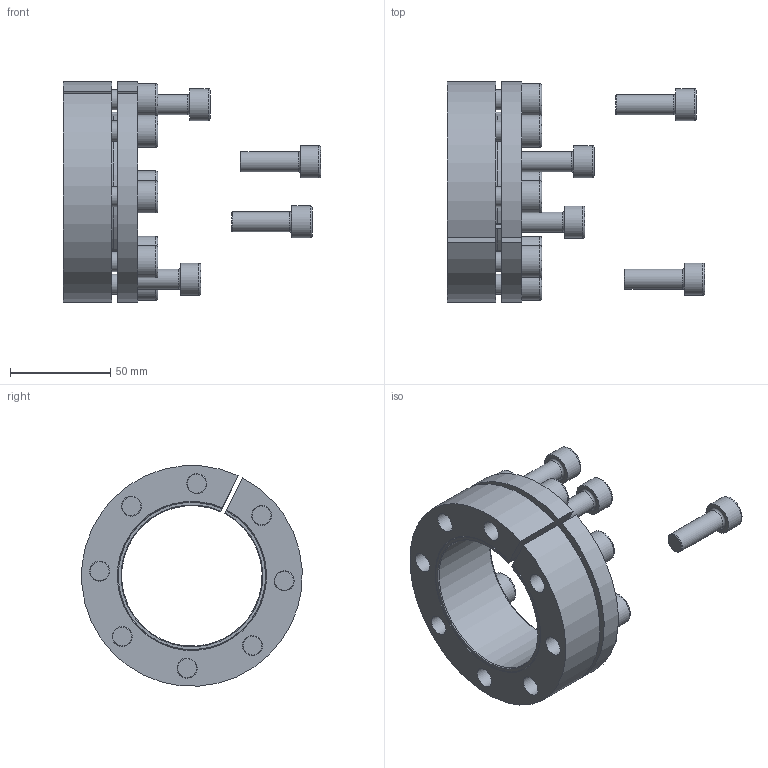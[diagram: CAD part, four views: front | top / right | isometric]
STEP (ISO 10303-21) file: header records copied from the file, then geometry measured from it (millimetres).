
FILE_DESCRIPTION((''),'2;1');
FILE_NAME('M:\Disegni 3D\CALETTATORI\RCK 13\70x110 - 06130070\Assieme.stp','2015-12-16T12:05:45',('fabietto'),(''),'Autodesk Inventor 2013','Autodesk Inventor 2013','');
FILE_SCHEMA(('AUTOMOTIVE_DESIGN { 1 0 10303 214 1 1 1 1 }'));
Length unit declared in the file: millimetre
Products named in the file (5): Assieme; Anello esterno; Parte1; Vite di bloccaggio M10x30 - Brunita; Vite di bloccaggio M10x30 - Zincata
Assembly tree (14 placements, depth 2):
  Assieme
    Anello esterno
    Parte1
    Vite di bloccaggio M10x30 - Brunita  x8
    Vite di bloccaggio M10x30 - Zincata  x4
Bounding box: 128.13 x 109.76 x 109.68 mm (x, y, z)
Volume: 217971.2 mm3; surface area: 83245.7 mm2
Topology: 14 solids, 14 shells, 364 faces, 756 edges, 444 vertices
Faces by surface type: plane 201, cylinder 121, torus 24, cone 18
Full cylindrical faces by diameter (mm): 10 x24, 11 x8, 16 x12
Entity records: 2811 total; most frequent: DIRECTION 490, CARTESIAN_POINT 441, ORIENTED_EDGE 372, AXIS2_PLACEMENT_3D 195, EDGE_CURVE 186, EDGE_LOOP 168, VERTEX_POINT 134, VECTOR 100
